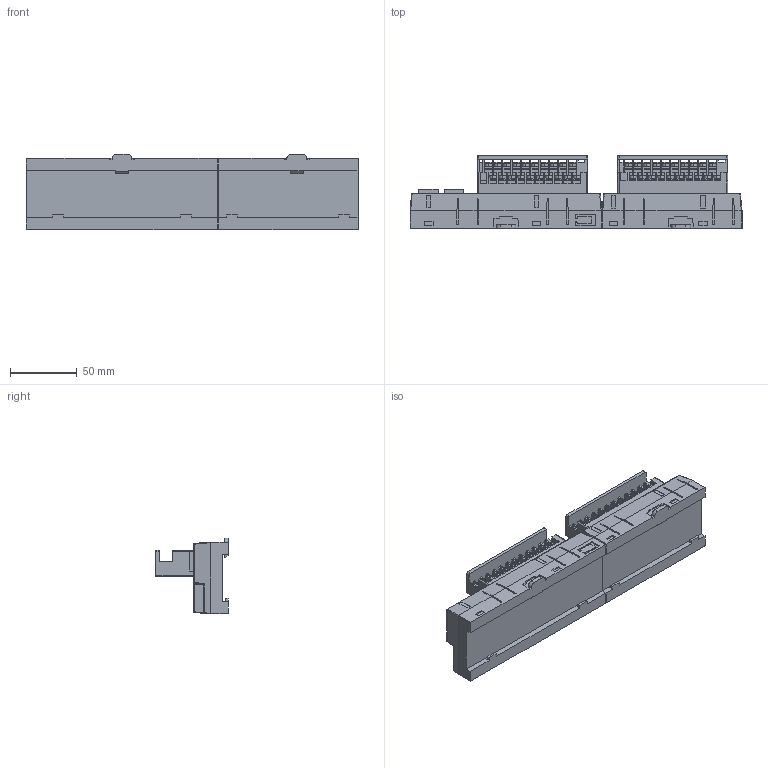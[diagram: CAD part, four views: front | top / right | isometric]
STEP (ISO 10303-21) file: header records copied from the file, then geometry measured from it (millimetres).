
FILE_DESCRIPTION (( 'STEP AP214' ), '1' );
FILE_NAME ('RG-M仩_32_200420.STEP', '2025-11-19T04:48:10', ( '' ), ( '' ), 'SwSTEP 2.0', 'SolidWorks 2022', '' );
FILE_SCHEMA (( 'AUTOMOTIVE_DESIGN' ));
Length unit declared in the file: millimetre
Products named in the file (1): RG-M□_32_200420
Bounding box: 249.22 x 54.3 x 57.01 mm (x, y, z)
Volume: 358764.3 mm3; surface area: 78991.7 mm2
Topology: 1 solids, 1 shells, 2077 faces, 5929 edges, 3876 vertices
Faces by surface type: plane 1718, cylinder 235, bspline 114, sphere 10
Entity records: 68770 total; most frequent: CARTESIAN_POINT 14952, ORIENTED_EDGE 11838, DIRECTION 10178, EDGE_CURVE 5919, VECTOR 5046, LINE 5046, VERTEX_POINT 3876, AXIS2_PLACEMENT_3D 2566
